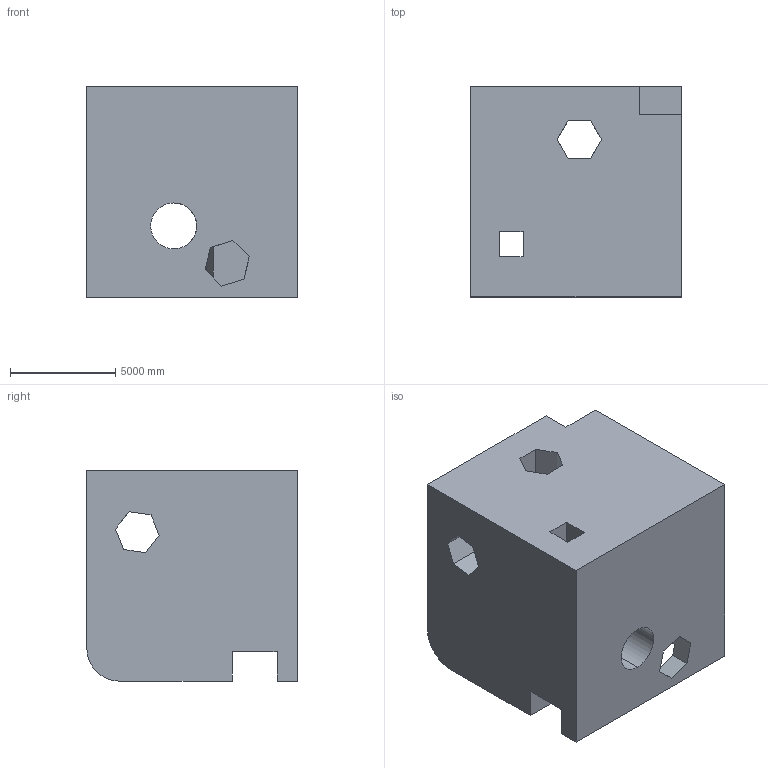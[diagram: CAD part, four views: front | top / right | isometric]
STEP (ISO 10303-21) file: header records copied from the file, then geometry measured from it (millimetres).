
FILE_DESCRIPTION (( 'STEP AP203' ), '1' );
FILE_NAME ('1741.STEP', '2022-08-19T12:16:51', ( 'user' ), ( '' ), 'SwSTEP 2.0', 'SolidWorks 2021', '' );
FILE_SCHEMA (( 'CONFIG_CONTROL_DESIGN' ));
Length unit declared in the file: centimetre
Products named in the file (1): 1741
Bounding box: 10000 x 10000 x 10000 mm (x, y, z)
Volume: 833701305159.7 mm3; surface area: 835945575.5 mm2
Topology: 1 solids, 1 shells, 55 faces, 183 edges, 122 vertices
Faces by surface type: plane 51, cylinder 4
Entity records: 2074 total; most frequent: CARTESIAN_POINT 385, ORIENTED_EDGE 366, DIRECTION 295, EDGE_CURVE 183, VECTOR 167, LINE 167, VERTEX_POINT 122, AXIS2_PLACEMENT_3D 64
